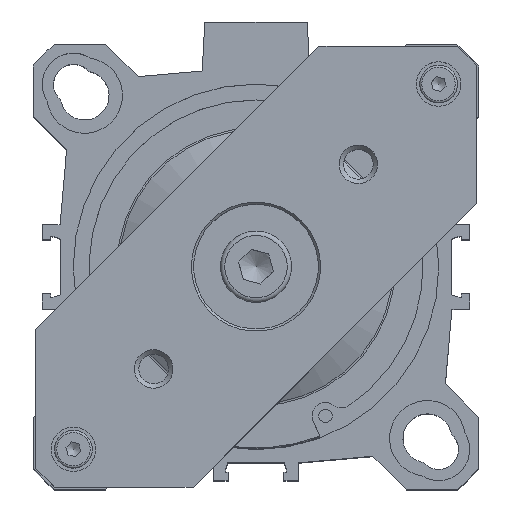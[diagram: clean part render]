
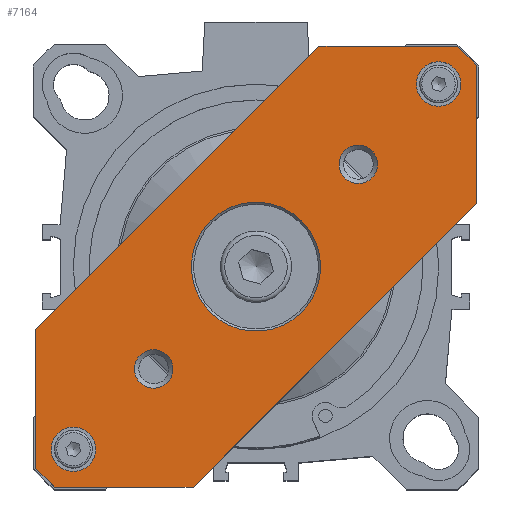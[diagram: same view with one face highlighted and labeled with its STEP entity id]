
A CAD part, top view. The second image highlights one B-rep face of the part: STEP entity #7164.
In plain terms, the highlighted planar face has unit normal (0, 0, 1).
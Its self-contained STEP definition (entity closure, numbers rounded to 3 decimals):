
#369=LINE('',#10797,#703);
#373=LINE('',#10806,#707);
#376=LINE('',#10874,#710);
#377=LINE('',#10876,#711);
#378=LINE('',#10878,#712);
#379=LINE('',#10879,#713);
#380=LINE('',#10881,#714);
#381=LINE('',#10883,#715);
#703=VECTOR('',#9178,1000.);
#707=VECTOR('',#9184,1000.);
#710=VECTOR('',#9267,1000.);
#711=VECTOR('',#9268,1000.);
#712=VECTOR('',#9269,1000.);
#713=VECTOR('',#9270,1000.);
#714=VECTOR('',#9271,1000.);
#715=VECTOR('',#9272,1000.);
#894=PLANE('',#7801);
#2085=ORIENTED_EDGE('',*,*,#2837,.F.);
#2086=ORIENTED_EDGE('',*,*,#2829,.T.);
#2087=ORIENTED_EDGE('',*,*,#2832,.T.);
#2088=ORIENTED_EDGE('',*,*,#2836,.F.);
#2089=ORIENTED_EDGE('',*,*,#2839,.F.);
#2090=ORIENTED_EDGE('',*,*,#2851,.F.);
#2091=ORIENTED_EDGE('',*,*,#2852,.F.);
#2092=ORIENTED_EDGE('',*,*,#2853,.F.);
#2093=ORIENTED_EDGE('',*,*,#2821,.F.);
#2094=ORIENTED_EDGE('',*,*,#2854,.F.);
#2095=ORIENTED_EDGE('',*,*,#2855,.F.);
#2096=ORIENTED_EDGE('',*,*,#2856,.F.);
#2097=ORIENTED_EDGE('',*,*,#2825,.F.);
#2821=EDGE_CURVE('',#3329,#3331,#369,.T.);
#2825=EDGE_CURVE('',#3333,#3335,#373,.T.);
#2829=EDGE_CURVE('',#3338,#3338,#3676,.T.);
#2832=EDGE_CURVE('',#3341,#3341,#3679,.T.);
#2836=EDGE_CURVE('',#3345,#3345,#3683,.T.);
#2837=EDGE_CURVE('',#3346,#3346,#3684,.T.);
#2839=EDGE_CURVE('',#3348,#3348,#3686,.T.);
#2851=EDGE_CURVE('',#3360,#3333,#376,.T.);
#2852=EDGE_CURVE('',#3361,#3360,#377,.T.);
#2853=EDGE_CURVE('',#3331,#3361,#378,.T.);
#2854=EDGE_CURVE('',#3362,#3329,#379,.T.);
#2855=EDGE_CURVE('',#3363,#3362,#380,.T.);
#2856=EDGE_CURVE('',#3335,#3363,#381,.T.);
#3329=VERTEX_POINT('',#10795);
#3331=VERTEX_POINT('',#10798);
#3333=VERTEX_POINT('',#10804);
#3335=VERTEX_POINT('',#10807);
#3338=VERTEX_POINT('',#10815);
#3341=VERTEX_POINT('',#10823);
#3345=VERTEX_POINT('',#10834);
#3346=VERTEX_POINT('',#10837);
#3348=VERTEX_POINT('',#10842);
#3360=VERTEX_POINT('',#10875);
#3361=VERTEX_POINT('',#10877);
#3362=VERTEX_POINT('',#10880);
#3363=VERTEX_POINT('',#10882);
#3676=CIRCLE('',#7764,5.);
#3679=CIRCLE('',#7769,5.);
#3683=CIRCLE('',#7776,14.5);
#3684=CIRCLE('',#7778,4.324);
#3686=CIRCLE('',#7781,4.324);
#4128=EDGE_LOOP('',(#2085));
#4129=EDGE_LOOP('',(#2086));
#4130=EDGE_LOOP('',(#2087));
#4131=EDGE_LOOP('',(#2088));
#4132=EDGE_LOOP('',(#2089));
#4133=EDGE_LOOP('',(#2090,#2091,#2092,#2093,#2094,#2095,#2096,#2097));
#4625=FACE_BOUND('',#4128,.T.);
#4626=FACE_BOUND('',#4129,.T.);
#4627=FACE_BOUND('',#4130,.T.);
#4628=FACE_BOUND('',#4131,.T.);
#4629=FACE_BOUND('',#4132,.T.);
#4630=FACE_BOUND('',#4133,.T.);
#7164=ADVANCED_FACE('',(#4625,#4626,#4627,#4628,#4629,#4630),#894,.T.);
#7764=AXIS2_PLACEMENT_3D('',#10814,#9191,#9192);
#7769=AXIS2_PLACEMENT_3D('',#10822,#9201,#9202);
#7776=AXIS2_PLACEMENT_3D('',#10833,#9215,#9216);
#7778=AXIS2_PLACEMENT_3D('',#10836,#9219,#9220);
#7781=AXIS2_PLACEMENT_3D('',#10841,#9225,#9226);
#7801=AXIS2_PLACEMENT_3D('',#10873,#9265,#9266);
#9178=DIRECTION('',(-1.,0.,0.));
#9184=DIRECTION('',(1.,0.,0.));
#9191=DIRECTION('',(0.,0.,-1.));
#9192=DIRECTION('',(1.,0.,0.));
#9201=DIRECTION('',(0.,0.,-1.));
#9202=DIRECTION('',(1.,0.,0.));
#9215=DIRECTION('',(0.,0.,1.));
#9216=DIRECTION('',(-1.,0.,0.));
#9219=DIRECTION('',(0.,0.,1.));
#9220=DIRECTION('',(-1.,0.,0.));
#9225=DIRECTION('',(0.,0.,1.));
#9226=DIRECTION('',(-1.,0.,0.));
#9265=DIRECTION('',(0.,0.,1.));
#9266=DIRECTION('',(1.,0.,0.));
#9267=DIRECTION('',(0.707,0.707,0.));
#9268=DIRECTION('',(0.,1.,0.));
#9269=DIRECTION('',(-0.707,0.707,0.));
#9270=DIRECTION('',(-0.707,-0.707,0.));
#9271=DIRECTION('',(0.,-1.,0.));
#9272=DIRECTION('',(0.707,-0.707,0.));
#10795=CARTESIAN_POINT('',(45.,-25.,6.5));
#10797=CARTESIAN_POINT('',(45.,-25.,6.5));
#10798=CARTESIAN_POINT('',(-45.,-25.,6.5));
#10804=CARTESIAN_POINT('',(-45.,25.,6.5));
#10806=CARTESIAN_POINT('',(-45.,25.,6.5));
#10807=CARTESIAN_POINT('',(45.,25.,6.5));
#10814=CARTESIAN_POINT('',(-58.,0.,6.5));
#10815=CARTESIAN_POINT('',(-53.,0.,6.5));
#10822=CARTESIAN_POINT('',(58.,0.,6.5));
#10823=CARTESIAN_POINT('',(63.,0.,6.5));
#10833=CARTESIAN_POINT('',(0.,0.,6.5));
#10834=CARTESIAN_POINT('',(-14.5,0.,6.5));
#10836=CARTESIAN_POINT('',(-32.5,0.,6.5));
#10837=CARTESIAN_POINT('',(-36.824,0.,6.5));
#10841=CARTESIAN_POINT('',(32.5,0.,6.5));
#10842=CARTESIAN_POINT('',(28.177,0.,6.5));
#10873=CARTESIAN_POINT('',(0.,0.,6.5));
#10874=CARTESIAN_POINT('',(-67.,3.,6.5));
#10875=CARTESIAN_POINT('',(-67.,3.,6.5));
#10876=CARTESIAN_POINT('',(-67.,-3.,6.5));
#10877=CARTESIAN_POINT('',(-67.,-3.,6.5));
#10878=CARTESIAN_POINT('',(-45.,-25.,6.5));
#10879=CARTESIAN_POINT('',(67.,-3.,6.5));
#10880=CARTESIAN_POINT('',(67.,-3.,6.5));
#10881=CARTESIAN_POINT('',(67.,3.,6.5));
#10882=CARTESIAN_POINT('',(67.,3.,6.5));
#10883=CARTESIAN_POINT('',(45.,25.,6.5));
